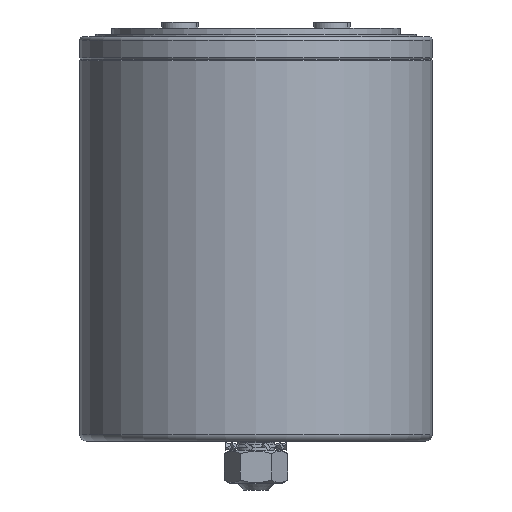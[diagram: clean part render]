
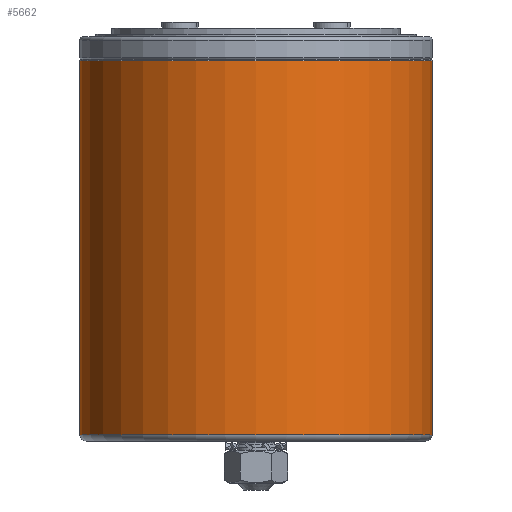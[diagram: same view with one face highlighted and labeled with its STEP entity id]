
A CAD part, front view. The second image highlights one B-rep face of the part: STEP entity #5662.
In plain terms, the highlighted cylindrical face has radius 58 mm (diameter 116 mm), a partial arc.
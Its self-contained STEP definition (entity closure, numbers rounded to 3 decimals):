
#496 = CARTESIAN_POINT ( 'NONE',  ( -73.5, 0., -18.854 ) ) ;
#526 = CARTESIAN_POINT ( 'NONE',  ( 42.5, 0., 104.217 ) ) ;
#1161 = CARTESIAN_POINT ( 'NONE',  ( 42.5, 0., -18.854 ) ) ;
#1586 = ORIENTED_EDGE ( 'NONE', *, *, #2404, .F. ) ;
#1686 = ORIENTED_EDGE ( 'NONE', *, *, #2819, .F. ) ;
#2139 = EDGE_CURVE ( 'NONE', #8019, #8148, #2600, .T. ) ;
#2224 = CARTESIAN_POINT ( 'NONE',  ( -15.5, 0., 104.217 ) ) ;
#2248 = AXIS2_PLACEMENT_3D ( 'NONE', #2224, #2256, #4174 ) ;
#2256 = DIRECTION ( 'NONE',  ( 0., 0., -1. ) ) ;
#2404 = EDGE_CURVE ( 'NONE', #6737, #8148, #7832, .T. ) ;
#2600 = LINE ( 'NONE', #3764, #3400 ) ;
#2819 = EDGE_CURVE ( 'NONE', #8183, #6737, #4186, .T. ) ;
#3022 = CARTESIAN_POINT ( 'NONE',  ( -15.5, 0., 151.967 ) ) ;
#3141 = DIRECTION ( 'NONE',  ( 0., 0., -1. ) ) ;
#3215 = ORIENTED_EDGE ( 'NONE', *, *, #4554, .T. ) ;
#3400 = VECTOR ( 'NONE', #5045, 1000. ) ;
#3764 = CARTESIAN_POINT ( 'NONE',  ( -73.5, 0., 151.967 ) ) ;
#3809 = AXIS2_PLACEMENT_3D ( 'NONE', #5753, #7846, #5113 ) ;
#4174 = DIRECTION ( 'NONE',  ( -1., 0., 0. ) ) ;
#4186 = LINE ( 'NONE', #6393, #4809 ) ;
#4366 = CIRCLE ( 'NONE', #2248, 58. ) ;
#4554 = EDGE_CURVE ( 'NONE', #8183, #8019, #4366, .T. ) ;
#4809 = VECTOR ( 'NONE', #3141, 1000. ) ;
#5045 = DIRECTION ( 'NONE',  ( 0., 0., -1. ) ) ;
#5113 = DIRECTION ( 'NONE',  ( -1., 0., 0. ) ) ;
#5662 = ADVANCED_FACE ( 'NONE', ( #8407 ), #6216, .T. ) ;
#5753 = CARTESIAN_POINT ( 'NONE',  ( -15.5, 0., -18.854 ) ) ;
#6134 = AXIS2_PLACEMENT_3D ( 'NONE', #3022, #6310, #8281 ) ;
#6216 = CYLINDRICAL_SURFACE ( 'NONE', #6134, 58. ) ;
#6310 = DIRECTION ( 'NONE',  ( 0., 0., -1. ) ) ;
#6393 = CARTESIAN_POINT ( 'NONE',  ( 42.5, 0., 151.967 ) ) ;
#6737 = VERTEX_POINT ( 'NONE', #1161 ) ;
#6869 = CARTESIAN_POINT ( 'NONE',  ( -73.5, 0., 104.217 ) ) ;
#7737 = ORIENTED_EDGE ( 'NONE', *, *, #2139, .T. ) ;
#7832 = CIRCLE ( 'NONE', #3809, 58. ) ;
#7846 = DIRECTION ( 'NONE',  ( 0., 0., -1. ) ) ;
#8019 = VERTEX_POINT ( 'NONE', #6869 ) ;
#8148 = VERTEX_POINT ( 'NONE', #496 ) ;
#8183 = VERTEX_POINT ( 'NONE', #526 ) ;
#8281 = DIRECTION ( 'NONE',  ( -1., 0., 0. ) ) ;
#8407 = FACE_OUTER_BOUND ( 'NONE', #8494, .T. ) ;
#8494 = EDGE_LOOP ( 'NONE', ( #1686, #3215, #7737, #1586 ) ) ;
